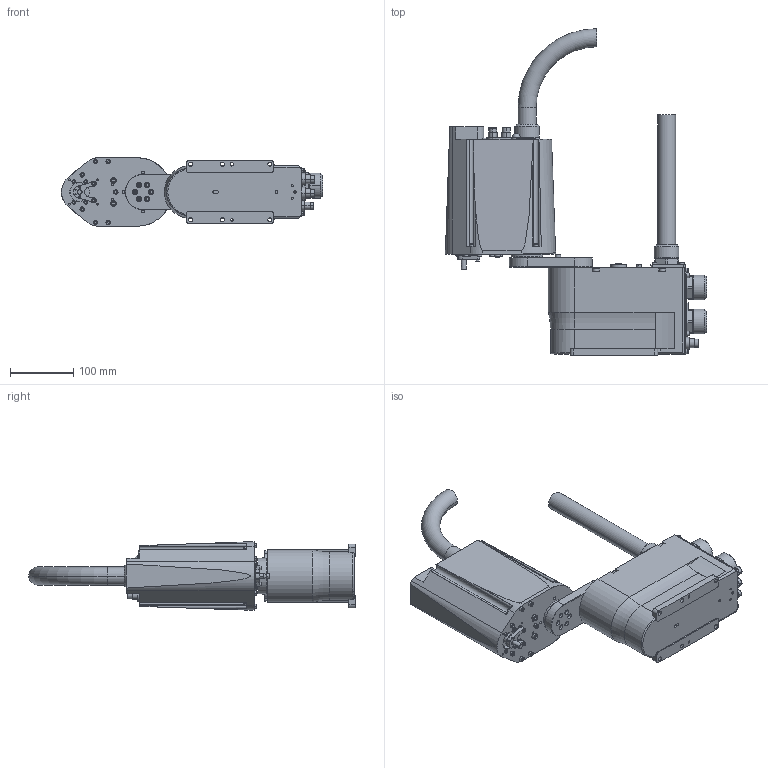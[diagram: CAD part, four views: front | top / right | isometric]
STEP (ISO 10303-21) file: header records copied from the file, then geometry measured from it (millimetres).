
FILE_DESCRIPTION( ( '' ), '1' );
FILE_NAME( '//expscmdclustefs.cadenas.external/client_exchange/iodir/jobs/output/wkb51503483_no0/STEP/G1_171SZ_2_14b.stp', '2012-11-22T12:53:57', ( '' ), ( '' ), ' ', ' ', ' ' );
FILE_SCHEMA( ( 'automotive_design' ) );
Length unit declared in the file: millimetre
Products named in the file (4): 1; 2; 3; 4
Bounding box: 411.7 x 515 x 108 mm (x, y, z)
Volume: 5119807.2 mm3; surface area: 395774.4 mm2
Topology: 4 solids, 6 shells, 1507 faces, 3560 edges, 2315 vertices
Faces by surface type: plane 816, cylinder 512, cone 164, torus 10, sphere 5
Entity records: 85228 total; most frequent: DIRECTION 7810, CARTESIAN_POINT 7674, STYLED_ITEM 7384, PRESENTATION_STYLE_ASSIGNMENT 7384, COLOUR_RGB 7384, ORIENTED_EDGE 7116, EDGE_CURVE 3558, CURVE_STYLE 3558
